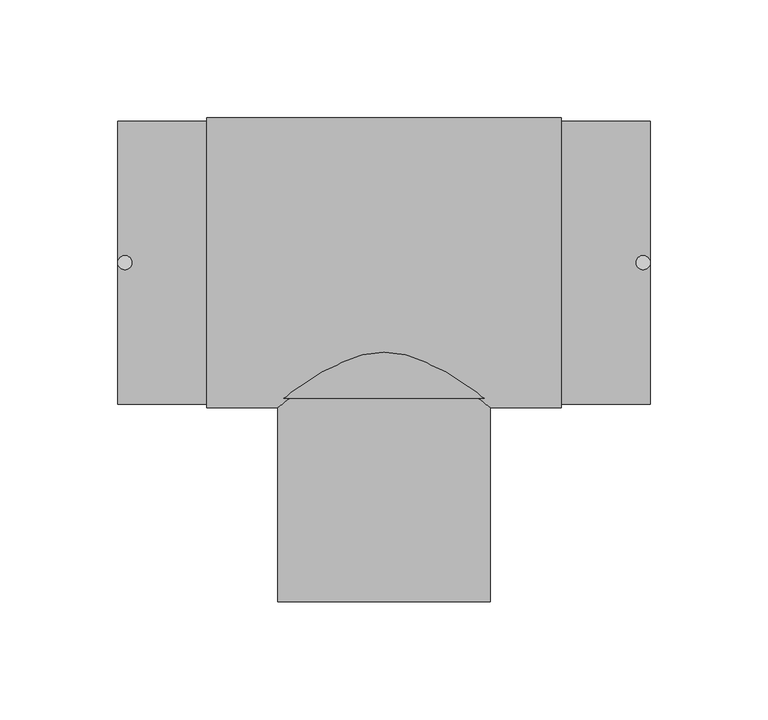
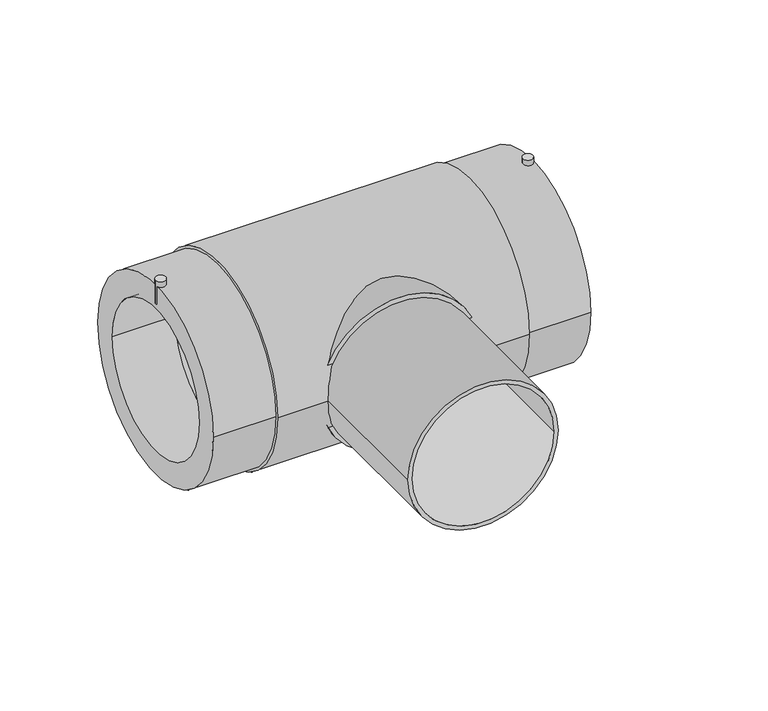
"""IFC4 building model written with IfcOpenShell, lengths in millimetres: pipe fitting geometry, EGB_VASEN_ PPR_Te electrosoldable WXRD300_Te reducida electrosoldable WXRD310 : Te electrosoldable."""

from ifc_helpers import new_model, si_unit, point, frame, frame_2d, origin, origin_2d, place, context, project, spatial, circle_curve, trimmed, segment, composite_curve, outline, extrude, source, transform, mapped, element, save


def pipe_fitting_704cf559(model_context):
    return source(origin(), model_context, "Body", "SweptSolid", [
        extrude(outline(composite_curve([segment(trimmed(circle_curve(frame_2d((-110.0, 0.0)), 3.0), [point((-113.0, 0.0))], [point((-107.0, 0.0))], False, "CARTESIAN"), True, "CONTINUOUS"), segment(trimmed(circle_curve(frame_2d((-110.0, 0.0)), 3.0), [point((-107.0, 0.0))], [point((-113.0, 0.0))], False, "CARTESIAN"), True, "CONTINUOUS")], self_intersect=False)), frame((0.0, 0.0, 48.0), z_axis=(0.0, 0.0, 1.0), x_axis=(1.0, 0.0, 0.0)), (0.0, 0.0, 1.0), 15.0),
        extrude(outline(composite_curve([segment(trimmed(circle_curve(frame_2d((110.0, 0.0)), 3.0), [point((107.0, 0.0))], [point((113.0, 0.0))], False, "CARTESIAN"), True, "CONTINUOUS"), segment(trimmed(circle_curve(frame_2d((110.0, 0.0)), 3.0), [point((113.0, 0.0))], [point((107.0, 0.0))], False, "CARTESIAN"), True, "CONTINUOUS")], self_intersect=False)), frame((0.0, 0.0, 48.0), z_axis=(0.0, 0.0, 1.0), x_axis=(1.0, 0.0, 0.0)), (0.0, 0.0, 1.0), 15.0),
        extrude(outline(composite_curve([segment(trimmed(circle_curve(origin_2d(), 47.5), [point((0.0, 47.5))], [point((0.0, -47.5))], False, "CARTESIAN"), True, "CONTINUOUS"), segment(trimmed(circle_curve(origin_2d(), 47.5), [point((0.0, -47.5))], [point((0.0, 47.5))], False, "CARTESIAN"), True, "CONTINUOUS")], self_intersect=False)), frame((0.0, -57.6, 0.0), z_axis=(0.0, 1.0, 0.0), x_axis=(0.0, 0.0, 1.0)), (0.0, 0.0, 1.0), 57.6),
        extrude(outline(composite_curve([segment(trimmed(circle_curve(origin_2d(), 45.0), [point((0.0, -45.0))], [point((0.0, 45.0))], False, "CARTESIAN"), True, "CONTINUOUS"), segment(trimmed(circle_curve(origin_2d(), 45.0), [point((0.0, 45.0))], [point((0.0, -45.0))], False, "CARTESIAN"), True, "CONTINUOUS")], self_intersect=False), holes=[composite_curve([segment(trimmed(circle_curve(origin_2d(), 42.5), [point((0.0, -42.5))], [point((0.0, 42.5))], True, "CARTESIAN"), True, "CONTINUOUS"), segment(trimmed(circle_curve(origin_2d(), 42.5), [point((0.0, 42.5))], [point((0.0, -42.5))], True, "CARTESIAN"), True, "CONTINUOUS")], self_intersect=False)]), frame((0.0, -144.0, 0.0), z_axis=(0.0, 1.0, 0.0), x_axis=(0.0, 0.0, 1.0)), (0.0, 0.0, 1.0), 86.4),
        extrude(outline(composite_curve([segment(trimmed(circle_curve(origin_2d(), 61.5), [point((-61.5, 0.0))], [point((61.5, 0.0))], False, "CARTESIAN"), True, "CONTINUOUS"), segment(trimmed(circle_curve(origin_2d(), 61.5), [point((61.5, 0.0))], [point((-61.5, 0.0))], False, "CARTESIAN"), True, "CONTINUOUS")], self_intersect=False), holes=[composite_curve([segment(trimmed(circle_curve(origin_2d(), 45.0), [point((-45.0, 0.0))], [point((45.0, 0.0))], True, "CARTESIAN"), True, "CONTINUOUS"), segment(trimmed(circle_curve(origin_2d(), 45.0), [point((45.0, 0.0))], [point((-45.0, 0.0))], True, "CARTESIAN"), True, "CONTINUOUS")], self_intersect=False)]), frame((-75.3333333, 0.0, 0.0), z_axis=(1.0, 0.0, 0.0), x_axis=(0.0, 1.0, 0.0)), (0.0, 0.0, 1.0), 150.6666667),
        extrude(outline(composite_curve([segment(trimmed(circle_curve(origin_2d(), 60.0), [point((-60.0, 0.0))], [point((60.0, 0.0))], False, "CARTESIAN"), True, "CONTINUOUS"), segment(trimmed(circle_curve(origin_2d(), 60.0), [point((60.0, 0.0))], [point((-60.0, 0.0))], False, "CARTESIAN"), True, "CONTINUOUS")], self_intersect=False), holes=[composite_curve([segment(trimmed(circle_curve(origin_2d(), 45.0), [point((-45.0, 0.0))], [point((45.0, 0.0))], True, "CARTESIAN"), True, "CONTINUOUS"), segment(trimmed(circle_curve(origin_2d(), 45.0), [point((45.0, 0.0))], [point((-45.0, 0.0))], True, "CARTESIAN"), True, "CONTINUOUS")], self_intersect=False)]), frame((-113.0, 0.0, 0.0), z_axis=(1.0, 0.0, 0.0), x_axis=(0.0, 1.0, 0.0)), (0.0, 0.0, 1.0), 226.0),
    ])


if __name__ == "__main__":
    model = new_model("IFC4")
    model_context = context("Model", 3, world=origin())
    ifc_project = project(units=[si_unit("LENGTHUNIT", "METRE", prefix="MILLI")], contexts=[model_context])
    site = spatial("IfcSite", under=ifc_project)
    building = spatial("IfcBuilding", under=site)
    placement = place(None, origin())
    pipe_fitting_shape = pipe_fitting_704cf559(model_context)
    element("IfcPipeFitting", 1, ObjectType="EGB_VASEN_ PPR_Te electrosoldable WXRD300_Te reducida electrosoldable WXRD310 : Te electrosoldable", at=placement, inside=building, context=model_context, shape_type="MappedRepresentation", body=[
        mapped(pipe_fitting_shape, transform((0.0, 0.0, 0.0), x_axis=(1.0, 0.0, 0.0), y_axis=(0.0, 1.0, 0.0), z_axis=(0.0, 0.0, 1.0))),
    ])
    save(model, "model.ifc")
